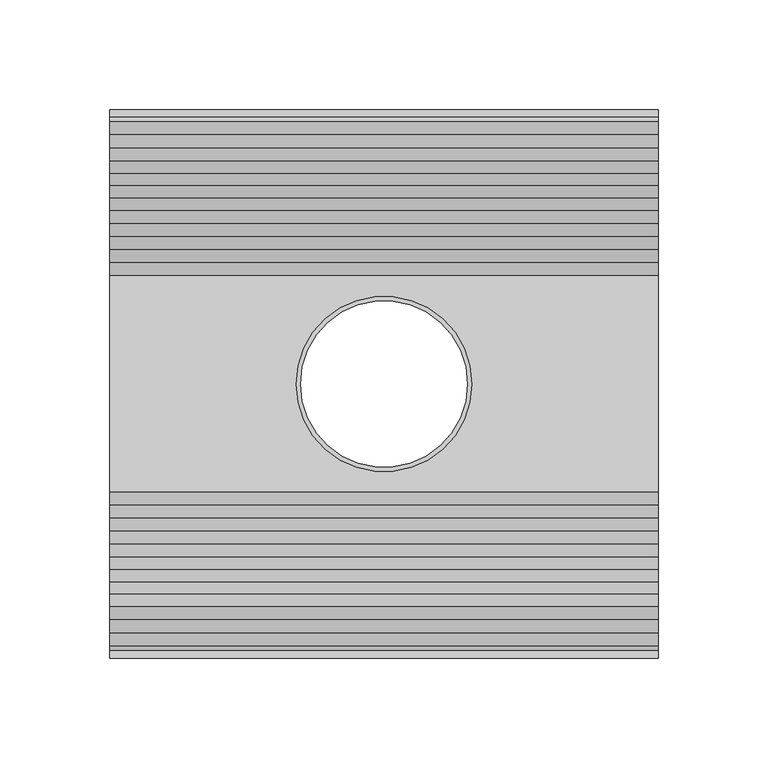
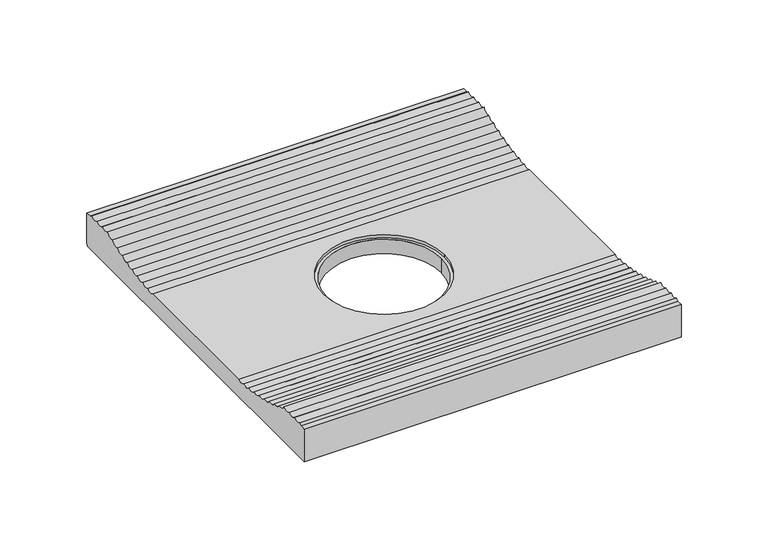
"""IFC4 building model written with IfcOpenShell, lengths in millimetres: proxy geometry, ROSA GRES_205 : Pieza 205_Aqua_Indubeige_Tecno."""

from ifc_helpers import new_model, si_unit, frame, origin, place, context, project, spatial, polyline, circle_curve, source, transform, mapped, element, save
from ifc_brep_helpers import plane_surface, cylinder_surface, revolved_surface, advanced_brep


def generic_models_2b3a51cf(model_context):
    return source(origin(), model_context, "Body", "AdvancedBrep", [
        advanced_brep(
        [(250.0, 0.0, 22.8672484), (250.0, -3.4834385, 22.8672484), (250.0, -5.3933441, 24.1254722), (250.0, -11.4768535, 24.0443215), (250.0, -17.4838192, 24.0385354), (250.0, -23.5481555, 24.1126825), (250.0, -29.0929084, 21.702672), (250.0, -34.6740913, 19.6629784), (250.0, -40.406127, 17.7784107), (250.0, -46.146977, 16.2504407), (250.0, -52.0386105, 14.9241491), (250.0, -57.8759715, 13.8344915), (250.0, -63.8574067, 12.9927609), (250.0, -69.7580788, 12.3552884), (250.0, -75.6586011, 11.9299493), (250.0, -174.3413989, 11.9299493), (250.0, -180.2419212, 12.3552884), (250.0, -186.1425933, 12.9927609), (250.0, -192.1240285, 13.8344915), (250.0, -197.9613895, 14.9241491), (250.0, -203.853023, 16.2504407), (250.0, -209.593873, 17.7784107), (250.0, -215.3259087, 19.6629784), (250.0, -220.9070916, 21.702672), (250.0, -226.4518445, 24.1126825), (250.0, -232.5161808, 24.0385354), (250.0, -238.5231465, 24.0443215), (250.0, -244.6066559, 24.1254722), (250.0, -246.5165615, 22.8672484), (250.0, -250.0, 22.8672484), (250.0, -250.0, 0.0), (250.0, -1.8, 0.0), (250.0, 0.0, 1.8), (0.0, 0.0, 22.8672484), (0.0, 0.0, 1.8), (0.0, -1.8, 0.0), (0.0, -250.0, 0.0), (0.0, -250.0, 22.8672484), (0.0, -246.5165615, 22.8672484), (0.0, -244.6066559, 24.1254722), (0.0, -238.5231465, 24.0443215), (0.0, -232.5161808, 24.0385354), (0.0, -226.4518445, 24.1126825), (0.0, -220.9070916, 21.702672), (0.0, -215.3259087, 19.6629784), (0.0, -209.593873, 17.7784107), (0.0, -203.853023, 16.2504407), (0.0, -197.9613895, 14.9241491), (0.0, -192.1240285, 13.8344915), (0.0, -186.1425933, 12.9927609), (0.0, -180.2419212, 12.3552884), (0.0, -174.3413989, 11.9299493), (0.0, -75.6586011, 11.9299493), (0.0, -69.7580788, 12.3552884), (0.0, -63.8574067, 12.9927609), (0.0, -57.8759715, 13.8344915), (0.0, -52.0386105, 14.9241491), (0.0, -46.146977, 16.2504407), (0.0, -40.406127, 17.7784107), (0.0, -34.6740913, 19.6629784), (0.0, -29.0929084, 21.702672), (0.0, -23.5481555, 24.1126825), (0.0, -17.4838192, 24.0385354), (0.0, -11.4768535, 24.0443215), (0.0, -5.3933441, 24.1254722), (0.0, -3.4834385, 22.8672484), (163.0, -125.0, 9.9299493), (87.0, -125.0, 9.9299493), (87.0, -125.0, 0.0), (163.0, -125.0, 0.0), (85.0, -125.0, 9.9299493), (165.0, -125.0, 9.9299493), (165.0, -125.0, 11.9299493), (85.0, -125.0, 11.9299493)],
        [
            (0, 1),
            (1, 2, circle_curve(frame((250.0, -3.4834385, 24.9459193), z_axis=(-1.0, 0.0, 0.0), x_axis=(0.0, -1.0, 0.0)), 2.078671)),
            (2, 3, circle_curve(frame((250.0, -8.4772441, 27.2443435), z_axis=(-1.0, 0.0, 0.0), x_axis=(0.0, -1.0, 0.0)), 4.3860914)),
            (3, 4, circle_curve(frame((250.0, -14.4834385, 27.2619892), z_axis=(-1.0, 0.0, 0.0), x_axis=(0.0, -1.0, 0.0)), 4.4037415)),
            (4, 5, circle_curve(frame((250.0, -20.4772441, 27.2443435), z_axis=(-1.0, 0.0, 0.0), x_axis=(0.0, -1.0, 0.0)), 4.3860914)),
            (5, 6, circle_curve(frame((250.0, -27.5873515, 25.8222711), z_axis=(-1.0, 0.0, 0.0), x_axis=(0.0, -1.0, 0.0)), 4.3860914)),
            (6, 7, circle_curve(frame((250.0, -32.9910112, 23.7132919), z_axis=(-1.0, 0.0, 0.0), x_axis=(0.0, -1.0, 0.0)), 4.3860914)),
            (7, 8, circle_curve(frame((250.0, -38.5344705, 21.7451095), z_axis=(-1.0, 0.0, 0.0), x_axis=(0.0, -1.0, 0.0)), 4.3860914)),
            (8, 9, circle_curve(frame((250.0, -44.1065968, 20.1330489), z_axis=(-1.0, 0.0, 0.0), x_axis=(0.0, -1.0, 0.0)), 4.3860914)),
            (9, 10, circle_curve(frame((250.0, -49.7914497, 18.690854), z_axis=(-1.0, 0.0, 0.0), x_axis=(0.0, -1.0, 0.0)), 4.3860914)),
            (10, 11, circle_curve(frame((250.0, -55.5496933, 17.5528551), z_axis=(-1.0, 0.0, 0.0), x_axis=(0.0, -1.0, 0.0)), 4.3860914)),
            (11, 12, circle_curve(frame((250.0, -61.3099097, 16.563203), z_axis=(-1.0, 0.0, 0.0), x_axis=(0.0, -1.0, 0.0)), 4.3860914)),
            (12, 13, circle_curve(frame((250.0, -67.1546539, 15.8851576), z_axis=(-1.0, 0.0, 0.0), x_axis=(0.0, -1.0, 0.0)), 4.3860914)),
            (13, 14, circle_curve(frame((250.0, -72.9411902, 15.372837), z_axis=(-1.0, 0.0, 0.0), x_axis=(0.0, -1.0, 0.0)), 4.3860914)),
            (14, 15),
            (15, 16, circle_curve(frame((250.0, -177.0588098, 15.372837), z_axis=(-1.0, 0.0, 0.0), x_axis=(0.0, -1.0, 0.0)), 4.3860914)),
            (16, 17, circle_curve(frame((250.0, -182.8453461, 15.8851576), z_axis=(-1.0, 0.0, 0.0), x_axis=(0.0, -1.0, 0.0)), 4.3860914)),
            (17, 18, circle_curve(frame((250.0, -188.6900903, 16.563203), z_axis=(-1.0, 0.0, 0.0), x_axis=(0.0, -1.0, 0.0)), 4.3860914)),
            (18, 19, circle_curve(frame((250.0, -194.4503067, 17.5528551), z_axis=(-1.0, 0.0, 0.0), x_axis=(0.0, -1.0, 0.0)), 4.3860914)),
            (19, 20, circle_curve(frame((250.0, -200.2085503, 18.690854), z_axis=(-1.0, 0.0, 0.0), x_axis=(0.0, -1.0, 0.0)), 4.3860914)),
            (20, 21, circle_curve(frame((250.0, -205.8934032, 20.1330489), z_axis=(-1.0, 0.0, 0.0), x_axis=(0.0, -1.0, 0.0)), 4.3860914)),
            (21, 22, circle_curve(frame((250.0, -211.4655295, 21.7451095), z_axis=(-1.0, 0.0, 0.0), x_axis=(0.0, -1.0, 0.0)), 4.3860914)),
            (22, 23, circle_curve(frame((250.0, -217.0089888, 23.7132919), z_axis=(-1.0, 0.0, 0.0), x_axis=(0.0, -1.0, 0.0)), 4.3860914)),
            (23, 24, circle_curve(frame((250.0, -222.4126485, 25.8222711), z_axis=(-1.0, 0.0, 0.0), x_axis=(0.0, -1.0, 0.0)), 4.3860914)),
            (24, 25, circle_curve(frame((250.0, -229.5227559, 27.2443435), z_axis=(-1.0, 0.0, 0.0), x_axis=(0.0, -1.0, 0.0)), 4.3860914)),
            (25, 26, circle_curve(frame((250.0, -235.5165615, 27.2619892), z_axis=(-1.0, 0.0, 0.0), x_axis=(0.0, -1.0, 0.0)), 4.4037415)),
            (26, 27, circle_curve(frame((250.0, -241.5227559, 27.2443435), z_axis=(-1.0, 0.0, 0.0), x_axis=(0.0, -1.0, 0.0)), 4.3860914)),
            (27, 28, circle_curve(frame((250.0, -246.5165615, 24.9459193), z_axis=(-1.0, 0.0, 0.0), x_axis=(0.0, -1.0, 0.0)), 2.078671)),
            (28, 29),
            (29, 30),
            (30, 31),
            (31, 32, circle_curve(frame((250.0, -1.8, 1.8), z_axis=(1.0, 0.0, 0.0), x_axis=(0.0, 1.0, 0.0)), 1.8)),
            (32, 0),
            (33, 34),
            (34, 35, circle_curve(frame((0.0, -1.8, 1.8), z_axis=(-1.0, 0.0, 0.0), x_axis=(0.0, 1.0, 0.0)), 1.8)),
            (35, 36),
            (36, 37),
            (37, 38),
            (38, 39, circle_curve(frame((0.0, -246.5165615, 24.9459193), z_axis=(1.0, 0.0, 0.0), x_axis=(0.0, -1.0, 0.0)), 2.078671)),
            (39, 40, circle_curve(frame((0.0, -241.5227559, 27.2443435), z_axis=(1.0, 0.0, 0.0), x_axis=(0.0, -1.0, 0.0)), 4.3860914)),
            (40, 41, circle_curve(frame((0.0, -235.5165615, 27.2619892), z_axis=(1.0, 0.0, 0.0), x_axis=(0.0, -1.0, 0.0)), 4.4037415)),
            (41, 42, circle_curve(frame((0.0, -229.5227559, 27.2443435), z_axis=(1.0, 0.0, 0.0), x_axis=(0.0, -1.0, 0.0)), 4.3860914)),
            (42, 43, circle_curve(frame((0.0, -222.4126485, 25.8222711), z_axis=(1.0, 0.0, 0.0), x_axis=(0.0, -1.0, 0.0)), 4.3860914)),
            (43, 44, circle_curve(frame((0.0, -217.0089888, 23.7132919), z_axis=(1.0, 0.0, 0.0), x_axis=(0.0, -1.0, 0.0)), 4.3860914)),
            (44, 45, circle_curve(frame((0.0, -211.4655295, 21.7451095), z_axis=(1.0, 0.0, 0.0), x_axis=(0.0, -1.0, 0.0)), 4.3860914)),
            (45, 46, circle_curve(frame((0.0, -205.8934032, 20.1330489), z_axis=(1.0, 0.0, 0.0), x_axis=(0.0, -1.0, 0.0)), 4.3860914)),
            (46, 47, circle_curve(frame((0.0, -200.2085503, 18.690854), z_axis=(1.0, 0.0, 0.0), x_axis=(0.0, -1.0, 0.0)), 4.3860914)),
            (47, 48, circle_curve(frame((0.0, -194.4503067, 17.5528551), z_axis=(1.0, 0.0, 0.0), x_axis=(0.0, -1.0, 0.0)), 4.3860914)),
            (48, 49, circle_curve(frame((0.0, -188.6900903, 16.563203), z_axis=(1.0, 0.0, 0.0), x_axis=(0.0, -1.0, 0.0)), 4.3860914)),
            (49, 50, circle_curve(frame((0.0, -182.8453461, 15.8851576), z_axis=(1.0, 0.0, 0.0), x_axis=(0.0, -1.0, 0.0)), 4.3860914)),
            (50, 51, circle_curve(frame((0.0, -177.0588098, 15.372837), z_axis=(1.0, 0.0, 0.0), x_axis=(0.0, -1.0, 0.0)), 4.3860914)),
            (51, 52),
            (52, 53, circle_curve(frame((0.0, -72.9411902, 15.372837), z_axis=(1.0, 0.0, 0.0), x_axis=(0.0, -1.0, 0.0)), 4.3860914)),
            (53, 54, circle_curve(frame((0.0, -67.1546539, 15.8851576), z_axis=(1.0, 0.0, 0.0), x_axis=(0.0, -1.0, 0.0)), 4.3860914)),
            (54, 55, circle_curve(frame((0.0, -61.3099097, 16.563203), z_axis=(1.0, 0.0, 0.0), x_axis=(0.0, -1.0, 0.0)), 4.3860914)),
            (55, 56, circle_curve(frame((0.0, -55.5496933, 17.5528551), z_axis=(1.0, 0.0, 0.0), x_axis=(0.0, -1.0, 0.0)), 4.3860914)),
            (56, 57, circle_curve(frame((0.0, -49.7914497, 18.690854), z_axis=(1.0, 0.0, 0.0), x_axis=(0.0, -1.0, 0.0)), 4.3860914)),
            (57, 58, circle_curve(frame((0.0, -44.1065968, 20.1330489), z_axis=(1.0, 0.0, 0.0), x_axis=(0.0, -1.0, 0.0)), 4.3860914)),
            (58, 59, circle_curve(frame((0.0, -38.5344705, 21.7451095), z_axis=(1.0, 0.0, 0.0), x_axis=(0.0, -1.0, 0.0)), 4.3860914)),
            (59, 60, circle_curve(frame((0.0, -32.9910112, 23.7132919), z_axis=(1.0, 0.0, 0.0), x_axis=(0.0, -1.0, 0.0)), 4.3860914)),
            (60, 61, circle_curve(frame((0.0, -27.5873515, 25.8222711), z_axis=(1.0, 0.0, 0.0), x_axis=(0.0, -1.0, 0.0)), 4.3860914)),
            (61, 62, circle_curve(frame((0.0, -20.4772441, 27.2443435), z_axis=(1.0, 0.0, 0.0), x_axis=(0.0, -1.0, 0.0)), 4.3860914)),
            (62, 63, circle_curve(frame((0.0, -14.4834385, 27.2619892), z_axis=(1.0, 0.0, 0.0), x_axis=(0.0, -1.0, 0.0)), 4.4037415)),
            (63, 64, circle_curve(frame((0.0, -8.4772441, 27.2443435), z_axis=(1.0, 0.0, 0.0), x_axis=(0.0, -1.0, 0.0)), 4.3860914)),
            (64, 65, circle_curve(frame((0.0, -3.4834385, 24.9459193), z_axis=(1.0, 0.0, 0.0), x_axis=(0.0, -1.0, 0.0)), 2.078671)),
            (65, 33),
            (66, 67, circle_curve(frame((125.0, -125.0, 9.9299493), z_axis=(0.0, 0.0, 1.0), x_axis=(1.0, 0.0, 0.0)), 38.0)),
            (67, 68),
            (68, 69, circle_curve(frame((125.0, -125.0, 0.0), z_axis=(0.0, 0.0, -1.0), x_axis=(1.0, 0.0, 0.0)), 38.0)),
            (69, 66),
            (69, 68, circle_curve(frame((125.0, -125.0, 0.0), z_axis=(0.0, 0.0, -1.0), x_axis=(1.0, 0.0, 0.0)), 38.0)),
            (67, 66, circle_curve(frame((125.0, -125.0, 9.9299493), z_axis=(0.0, 0.0, 1.0), x_axis=(1.0, 0.0, 0.0)), 38.0)),
            (70, 71, circle_curve(frame((125.0, -125.0, 9.9299493), z_axis=(0.0, 0.0, 1.0), x_axis=(1.0, 0.0, 0.0)), 40.0)),
            (71, 70, circle_curve(frame((125.0, -125.0, 9.9299493), z_axis=(0.0, 0.0, 1.0), x_axis=(1.0, 0.0, 0.0)), 40.0)),
            (71, 72),
            (72, 73, circle_curve(frame((125.0, -125.0, 11.9299493), z_axis=(0.0, 0.0, 1.0), x_axis=(1.0, 0.0, 0.0)), 40.0)),
            (73, 70),
            (73, 72, circle_curve(frame((125.0, -125.0, 11.9299493), z_axis=(0.0, 0.0, 1.0), x_axis=(1.0, 0.0, 0.0)), 40.0)),
            (32, 34),
            (33, 0),
            (31, 35),
            (30, 36),
            (29, 37),
            (28, 38),
            (27, 39),
            (26, 40),
            (25, 41),
            (24, 42),
            (23, 43),
            (22, 44),
            (21, 45),
            (20, 46),
            (19, 47),
            (18, 48),
            (17, 49),
            (16, 50),
            (15, 51),
            (14, 52),
            (13, 53),
            (12, 54),
            (11, 55),
            (10, 56),
            (9, 57),
            (8, 58),
            (7, 59),
            (6, 60),
            (5, 61),
            (4, 62),
            (3, 63),
            (2, 64),
            (1, 65),
        ],
        [
            plane_surface(frame((250.0, 0.0, 0.0), z_axis=(1.0, 0.0, 0.0), x_axis=(0.0, 0.0, 1.0))),
            plane_surface(frame((0.0, 0.0, 0.0), z_axis=(-1.0, 0.0, 0.0), x_axis=(0.0, 0.0, 1.0))),
            revolved_surface(polyline([(163.0, -125.0, 9.9299493), (163.0, -125.0, 0.0)]), (125.0, -125.0, 0.0), (0.0, 0.0, 1.0)),
            plane_surface(frame((165.0, -125.0, 9.9299493), z_axis=(0.0, 0.0, 1.0), x_axis=(0.0, 1.0, 0.0))),
            revolved_surface(polyline([(165.0, -125.0, 11.9299493), (165.0, -125.0, 9.9299493)]), (125.0, -125.0, 9.9299493), (0.0, 0.0, 1.0)),
            plane_surface(frame((250.0, 0.0, 22.8672484), z_axis=(0.0, 1.0, 0.0), x_axis=(-1.0, 0.0, 0.0))),
            cylinder_surface(frame((250.0, -1.8, 1.8), z_axis=(1.0, 0.0, 0.0), x_axis=(0.0, 1.0, 0.0)), 1.8),
            plane_surface(frame((250.0, -1.8, 0.0), z_axis=(0.0, 0.0, -1.0), x_axis=(-1.0, 0.0, 0.0))),
            plane_surface(frame((250.0, -250.0, 0.0), z_axis=(0.0, -1.0, 0.0), x_axis=(-1.0, 0.0, 0.0))),
            plane_surface(frame((250.0, -250.0, 22.8672484), z_axis=(0.0, 0.0, 1.0), x_axis=(-1.0, 0.0, 0.0))),
            revolved_surface(polyline([(0.0, -248.5952325, 24.9459193), (250.0, -248.5952325, 24.9459193)]), (250.0, -246.5165615, 24.9459193), (-1.0, 0.0, 0.0)),
            revolved_surface(polyline([(0.0, -245.9088473, 27.2443435), (250.0, -245.9088473, 27.2443435)]), (250.0, -241.5227559, 27.2443435), (-1.0, 0.0, 0.0)),
            revolved_surface(polyline([(0.0, -239.920303, 27.2619892), (250.0, -239.920303, 27.2619892)]), (250.0, -235.5165615, 27.2619892), (-1.0, 0.0, 0.0)),
            revolved_surface(polyline([(0.0, -233.9088473, 27.2443435), (250.0, -233.9088473, 27.2443435)]), (250.0, -229.5227559, 27.2443435), (-1.0, 0.0, 0.0)),
            revolved_surface(polyline([(0.0, -226.7987399, 25.8222711), (250.0, -226.7987399, 25.8222711)]), (250.0, -222.4126485, 25.8222711), (-1.0, 0.0, 0.0)),
            revolved_surface(polyline([(0.0, -221.3950802, 23.7132919), (250.0, -221.3950802, 23.7132919)]), (250.0, -217.0089888, 23.7132919), (-1.0, 0.0, 0.0)),
            revolved_surface(polyline([(0.0, -215.8516209, 21.7451095), (250.0, -215.8516209, 21.7451095)]), (250.0, -211.4655295, 21.7451095), (-1.0, 0.0, 0.0)),
            revolved_surface(polyline([(0.0, -210.2794946, 20.1330489), (250.0, -210.2794946, 20.1330489)]), (250.0, -205.8934032, 20.1330489), (-1.0, 0.0, 0.0)),
            revolved_surface(polyline([(0.0, -204.5946417, 18.690854), (250.0, -204.5946417, 18.690854)]), (250.0, -200.2085503, 18.690854), (-1.0, 0.0, 0.0)),
            revolved_surface(polyline([(0.0, -198.8363981, 17.5528551), (250.0, -198.8363981, 17.5528551)]), (250.0, -194.4503067, 17.5528551), (-1.0, 0.0, 0.0)),
            revolved_surface(polyline([(0.0, -193.0761817, 16.563203), (250.0, -193.0761817, 16.563203)]), (250.0, -188.6900903, 16.563203), (-1.0, 0.0, 0.0)),
            revolved_surface(polyline([(0.0, -187.2314375, 15.8851576), (250.0, -187.2314375, 15.8851576)]), (250.0, -182.8453461, 15.8851576), (-1.0, 0.0, 0.0)),
            revolved_surface(polyline([(0.0, -181.4449012, 15.372837), (250.0, -181.4449012, 15.372837)]), (250.0, -177.0588098, 15.372837), (-1.0, 0.0, 0.0)),
            plane_surface(frame((250.0, -174.3413989, 11.9299493), z_axis=(0.0, 0.0, 1.0), x_axis=(-1.0, 0.0, 0.0))),
            revolved_surface(polyline([(0.0, -77.32728159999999, 15.372837), (250.0, -77.32728159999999, 15.372837)]), (250.0, -72.9411902, 15.372837), (-1.0, 0.0, 0.0)),
            revolved_surface(polyline([(0.0, -71.5407453, 15.8851576), (250.0, -71.5407453, 15.8851576)]), (250.0, -67.1546539, 15.8851576), (-1.0, 0.0, 0.0)),
            revolved_surface(polyline([(0.0, -65.6960011, 16.563203), (250.0, -65.6960011, 16.563203)]), (250.0, -61.3099097, 16.563203), (-1.0, 0.0, 0.0)),
            revolved_surface(polyline([(0.0, -59.9357847, 17.5528551), (250.0, -59.9357847, 17.5528551)]), (250.0, -55.5496933, 17.5528551), (-1.0, 0.0, 0.0)),
            revolved_surface(polyline([(0.0, -54.1775411, 18.690854), (250.0, -54.1775411, 18.690854)]), (250.0, -49.7914497, 18.690854), (-1.0, 0.0, 0.0)),
            revolved_surface(polyline([(0.0, -48.492688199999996, 20.1330489), (250.0, -48.492688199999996, 20.1330489)]), (250.0, -44.1065968, 20.1330489), (-1.0, 0.0, 0.0)),
            revolved_surface(polyline([(0.0, -42.920561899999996, 21.7451095), (250.0, -42.920561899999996, 21.7451095)]), (250.0, -38.5344705, 21.7451095), (-1.0, 0.0, 0.0)),
            revolved_surface(polyline([(0.0, -37.3771026, 23.7132919), (250.0, -37.3771026, 23.7132919)]), (250.0, -32.9910112, 23.7132919), (-1.0, 0.0, 0.0)),
            revolved_surface(polyline([(0.0, -31.973442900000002, 25.8222711), (250.0, -31.973442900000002, 25.8222711)]), (250.0, -27.5873515, 25.8222711), (-1.0, 0.0, 0.0)),
            revolved_surface(polyline([(0.0, -24.863335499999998, 27.2443435), (250.0, -24.863335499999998, 27.2443435)]), (250.0, -20.4772441, 27.2443435), (-1.0, 0.0, 0.0)),
            revolved_surface(polyline([(0.0, -18.88718, 27.2619892), (250.0, -18.88718, 27.2619892)]), (250.0, -14.4834385, 27.2619892), (-1.0, 0.0, 0.0)),
            revolved_surface(polyline([(0.0, -12.8633355, 27.2443435), (250.0, -12.8633355, 27.2443435)]), (250.0, -8.4772441, 27.2443435), (-1.0, 0.0, 0.0)),
            revolved_surface(polyline([(0.0, -5.5621095, 24.9459193), (250.0, -5.5621095, 24.9459193)]), (250.0, -3.4834385, 24.9459193), (-1.0, 0.0, 0.0)),
            plane_surface(frame((250.0, -3.4834385, 22.8672484), z_axis=(0.0, 4.293775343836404e-12, 1.0), x_axis=(-1.0, 0.0, 0.0))),
        ],
        [
            (0, [[1, 2, 3, 4, 5, 6, 7, 8, 9, 10, 11, 12, 13, 14, 15, 16, 17, 18, 19, 20, 21, 22, 23, 24, 25, 26, 27, 28, 29, 30, 31, 32, 33]]),
            (1, [[34, 35, 36, 37, 38, 39, 40, 41, 42, 43, 44, 45, 46, 47, 48, 49, 50, 51, 52, 53, 54, 55, 56, 57, 58, 59, 60, 61, 62, 63, 64, 65, 66]]),
            (2, [[67, 68, 69, 70]]),
            (2, [[71, -68, 72, -70]]),
            (3, [[73, 74], [-72, -67]]),
            (4, [[75, 76, 77, -74]]),
            (4, [[-77, 78, -75, -73]]),
            (5, [[79, -34, 80, -33]]),
            (6, [[81, -35, -79, -32]]),
            (7, [[82, -36, -81, -31], [-71, -69]]),
            (8, [[83, -37, -82, -30]]),
            (9, [[84, -38, -83, -29]]),
            (10, [[85, -39, -84, -28]]),
            (11, [[86, -40, -85, -27]]),
            (12, [[87, -41, -86, -26]]),
            (13, [[88, -42, -87, -25]]),
            (14, [[89, -43, -88, -24]]),
            (15, [[90, -44, -89, -23]]),
            (16, [[91, -45, -90, -22]]),
            (17, [[92, -46, -91, -21]]),
            (18, [[93, -47, -92, -20]]),
            (19, [[94, -48, -93, -19]]),
            (20, [[95, -49, -94, -18]]),
            (21, [[96, -50, -95, -17]]),
            (22, [[97, -51, -96, -16]]),
            (23, [[98, -52, -97, -15], [-78, -76]]),
            (24, [[99, -53, -98, -14]]),
            (25, [[100, -54, -99, -13]]),
            (26, [[101, -55, -100, -12]]),
            (27, [[102, -56, -101, -11]]),
            (28, [[103, -57, -102, -10]]),
            (29, [[104, -58, -103, -9]]),
            (30, [[105, -59, -104, -8]]),
            (31, [[106, -60, -105, -7]]),
            (32, [[107, -61, -106, -6]]),
            (33, [[108, -62, -107, -5]]),
            (34, [[109, -63, -108, -4]]),
            (35, [[110, -64, -109, -3]]),
            (36, [[111, -65, -110, -2]]),
            (37, [[-80, -66, -111, -1]]),
        ],
    ),
    ])


if __name__ == "__main__":
    model = new_model("IFC4")
    model_context = context("Model", 3, world=origin())
    ifc_project = project(units=[si_unit("LENGTHUNIT", "METRE", prefix="MILLI")], contexts=[model_context])
    site = spatial("IfcSite", under=ifc_project)
    building = spatial("IfcBuilding", under=site)
    placement = place(None, origin())
    generic_models_shape = generic_models_2b3a51cf(model_context)
    element("IfcBuildingElementProxy", 1, Name="ROSA GRES_205 : Pieza 205_Aqua_Indubeige_Tecno", ObjectType="ROSA GRES_205 : Pieza 205_Aqua_Indubeige_Tecno", at=placement, inside=building, context=model_context, shape_type="MappedRepresentation", body=[
        mapped(generic_models_shape, transform((0.0, 0.0, 0.0), x_axis=(1.0, 0.0, 0.0), y_axis=(0.0, 1.0, 0.0), z_axis=(0.0, 0.0, 1.0))),
    ])
    save(model, "model.ifc")
